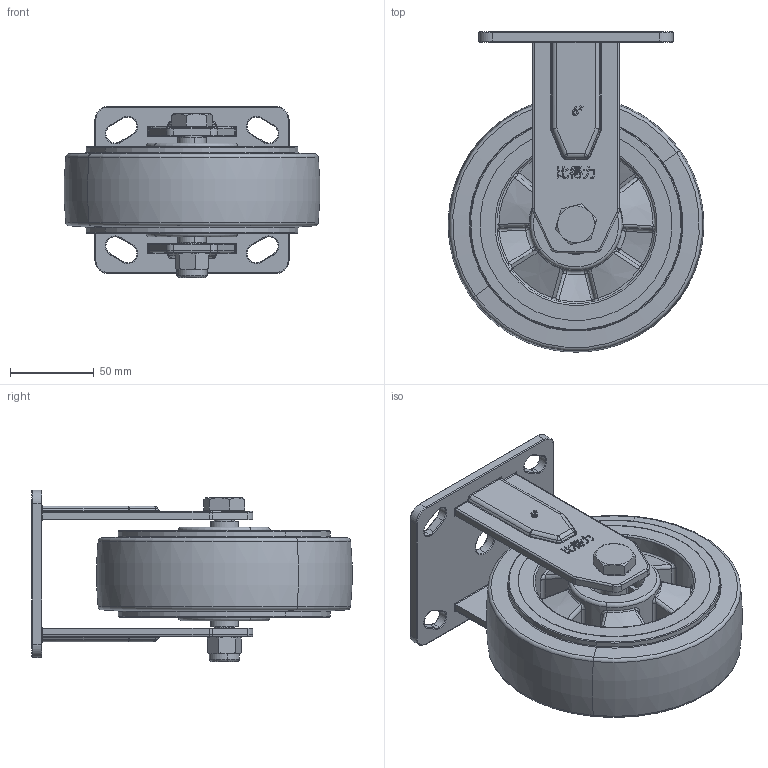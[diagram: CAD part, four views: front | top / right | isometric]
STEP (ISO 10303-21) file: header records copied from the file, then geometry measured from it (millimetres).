
FILE_DESCRIPTION (( 'STEP AP203' ), '1' );
FILE_NAME ('6ｴ釉ﾘﾔﾘﾐﾍｹﾌｶｨｽﾅﾂﾖ.STEP', '2023-02-22T09:39:01', ( 'amidn' ), ( '' ), 'SwSTEP 2.0', 'SolidWorks 2018', '' );
FILE_SCHEMA (( 'CONFIG_CONTROL_DESIGN' ));
Length unit declared in the file: millimetre
Products named in the file (6): 6寸重载型固定脚轮; 5渡笭婥倰 粣杶; prevailing trq nut style 1 insert fine_din_DIN EN ISO 10512 - M12x1.5 - S; high strength hex head bolt_din_DIN 6914 - M12 x 90 x 23-S; 6渡傀伎謫; 6渡笭婥倰嘐隅殤
Assembly tree (5 placements, depth 2):
  6寸重载型固定脚轮
    6渡傀伎謫
    6渡笭婥倰嘐隅殤
    5渡笭婥倰 粣杶
    high strength hex head bolt_din_DIN 6914 - M12 x 90 x 23-S
    prevailing trq nut style 1 insert fine_din_DIN EN ISO 10512 - M12x1.5 - S
Bounding box: 152.75 x 191.37 x 102.5 mm (x, y, z)
Volume: 830957.2 mm3; surface area: 158059.1 mm2
Topology: 5 solids, 5 shells, 910 faces, 2163 edges, 1251 vertices
Faces by surface type: cylinder 232, plane 178, bspline 164, cone 146, torus 124, sphere 66
Entity records: 34554 total; most frequent: CARTESIAN_POINT 14220, ORIENTED_EDGE 4206, DIRECTION 4044, EDGE_CURVE 2103, AXIS2_PLACEMENT_3D 1633, VERTEX_POINT 1231, EDGE_LOOP 958, ADVANCED_FACE 910
